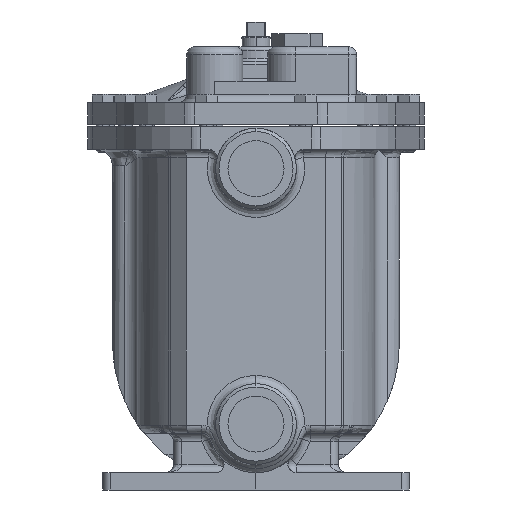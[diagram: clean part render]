
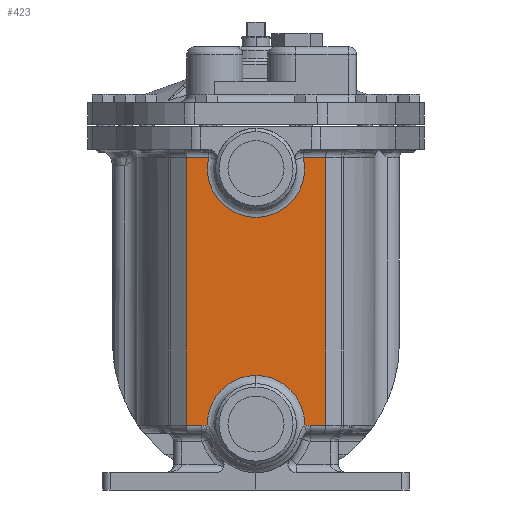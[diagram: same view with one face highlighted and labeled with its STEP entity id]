
A CAD part, left-side view. The second image highlights one B-rep face of the part: STEP entity #423.
In plain terms, the highlighted planar face has unit normal (-1, 0, 0).
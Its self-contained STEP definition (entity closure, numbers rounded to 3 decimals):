
#423=ADVANCED_FACE('',(#1532),#1531,.T.);
#1531=PLANE('',#6269);
#1532=FACE_OUTER_BOUND('',#6270,.T.);
#6266=CARTESIAN_POINT('',(-163.,-50.721,-81.478));
#6267=DIRECTION('',(-1.,0.,0.));
#6268=DIRECTION('',(0.,0.,1.));
#6269=AXIS2_PLACEMENT_3D('',#6266,#6267,#6268);
#6270=EDGE_LOOP('',(#10015,#10016,#10017,#10018,#10019,#10020,#10021,#10022,#10023,#10024,#10025));
#10015=ORIENTED_EDGE('',*,*,#11995,.T.);
#10016=ORIENTED_EDGE('',*,*,#11996,.T.);
#10017=ORIENTED_EDGE('',*,*,#11812,.T.);
#10018=ORIENTED_EDGE('',*,*,#11810,.T.);
#10019=ORIENTED_EDGE('',*,*,#11877,.T.);
#10020=ORIENTED_EDGE('',*,*,#11997,.T.);
#10021=ORIENTED_EDGE('',*,*,#11998,.T.);
#10022=ORIENTED_EDGE('',*,*,#11999,.T.);
#10023=ORIENTED_EDGE('',*,*,#12000,.F.);
#10024=ORIENTED_EDGE('',*,*,#11772,.T.);
#10025=ORIENTED_EDGE('',*,*,#11777,.T.);
#11772=EDGE_CURVE('',#13228,#13229,#13230,.T.);
#11777=EDGE_CURVE('',#13229,#13255,#13262,.T.);
#11810=EDGE_CURVE('',#13469,#13449,#13483,.T.);
#11812=EDGE_CURVE('',#13208,#13469,#13495,.T.);
#11877=EDGE_CURVE('',#13449,#13933,#13934,.T.);
#11995=EDGE_CURVE('',#13255,#14736,#14737,.T.);
#11996=EDGE_CURVE('',#14736,#13208,#14743,.T.);
#11997=EDGE_CURVE('',#13933,#14749,#14750,.T.);
#11998=EDGE_CURVE('',#14749,#14756,#14757,.T.);
#11999=EDGE_CURVE('',#14756,#14763,#14764,.T.);
#12000=EDGE_CURVE('',#13228,#14763,#14770,.T.);
#13208=VERTEX_POINT('',#19992);
#13228=VERTEX_POINT('',#20014);
#13229=VERTEX_POINT('',#20015);
#13230=LINE('',#20016,#20017);
#13255=VERTEX_POINT('',#20030);
#13262=CIRCLE('',#20038,10.);
#13449=VERTEX_POINT('',#20164);
#13469=VERTEX_POINT('',#20175);
#13483=LINE('',#20184,#20185);
#13495=CIRCLE('',#20194,10.);
#13933=VERTEX_POINT('',#20721);
#13934=LINE('',#20722,#20723);
#14736=VERTEX_POINT('',#21317);
#14737=CIRCLE('',#21321,29.5);
#14743=CIRCLE('',#21325,29.5);
#14749=VERTEX_POINT('',#21326);
#14750=LINE('',#21327,#21328);
#14756=VERTEX_POINT('',#21330);
#14757=CIRCLE('',#21334,29.5);
#14763=VERTEX_POINT('',#21335);
#14764=LINE('',#21336,#21337);
#14770=LINE('',#21339,#21340);
#19992=CARTESIAN_POINT('',(-163.,-29.474,-71.478));
#20014=CARTESIAN_POINT('',(-163.,42.268,-70.903));
#20015=CARTESIAN_POINT('',(-163.,32.814,-70.903));
#20016=CARTESIAN_POINT('',(-163.,42.268,-70.903));
#20017=VECTOR('',#20018,9.454);
#20018=DIRECTION('',(0.,-1.,0.));
#20030=CARTESIAN_POINT('',(-163.,29.474,-71.478));
#20035=CARTESIAN_POINT('',(-163.,32.814,-80.903));
#20036=DIRECTION('',(1.,0.,0.));
#20037=DIRECTION('',(0.,0.,-1.));
#20038=AXIS2_PLACEMENT_3D('',#20035,#20036,#20037);
#20164=CARTESIAN_POINT('',(-163.,-42.268,-70.903));
#20175=CARTESIAN_POINT('',(-163.,-32.814,-70.903));
#20184=CARTESIAN_POINT('',(-163.,-32.814,-70.903));
#20185=VECTOR('',#20186,9.454);
#20186=DIRECTION('',(0.,-1.,0.));
#20191=CARTESIAN_POINT('',(-163.,-32.814,-80.903));
#20192=DIRECTION('',(1.,0.,0.));
#20193=DIRECTION('',(0.,0.,-1.));
#20194=AXIS2_PLACEMENT_3D('',#20191,#20192,#20193);
#20721=CARTESIAN_POINT('',(-163.,-42.268,91.472));
#20722=CARTESIAN_POINT('',(-163.,-42.268,-70.903));
#20723=VECTOR('',#20724,162.375);
#20724=DIRECTION('',(0.,0.,1.));
#21317=CARTESIAN_POINT('',(-163.,0.,-40.75));
#21318=CARTESIAN_POINT('',(-163.,0.,-70.25));
#21319=DIRECTION('',(1.,0.,0.));
#21320=DIRECTION('',(0.,0.,-1.));
#21321=AXIS2_PLACEMENT_3D('',#21318,#21319,#21320);
#21322=CARTESIAN_POINT('',(-163.,0.,-70.25));
#21323=DIRECTION('',(1.,0.,0.));
#21324=DIRECTION('',(0.,0.,-1.));
#21325=AXIS2_PLACEMENT_3D('',#21322,#21323,#21324);
#21326=CARTESIAN_POINT('',(-163.,-28.724,91.472));
#21327=CARTESIAN_POINT('',(-163.,-42.268,91.472));
#21328=VECTOR('',#21329,13.544);
#21329=DIRECTION('',(0.,1.,0.));
#21330=CARTESIAN_POINT('',(-163.,28.724,91.472));
#21331=CARTESIAN_POINT('',(-163.,0.,84.75));
#21332=DIRECTION('',(1.,0.,0.));
#21333=DIRECTION('',(0.,0.974,0.228));
#21334=AXIS2_PLACEMENT_3D('',#21331,#21332,#21333);
#21335=CARTESIAN_POINT('',(-163.,42.268,91.472));
#21336=CARTESIAN_POINT('',(-163.,28.724,91.472));
#21337=VECTOR('',#21338,13.544);
#21338=DIRECTION('',(0.,1.,0.));
#21339=CARTESIAN_POINT('',(-163.,42.268,-70.903));
#21340=VECTOR('',#21341,162.375);
#21341=DIRECTION('',(0.,0.,1.));
